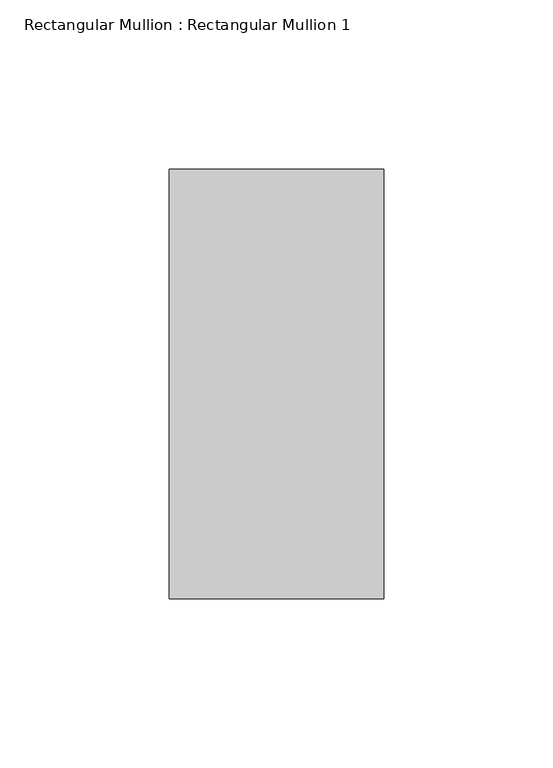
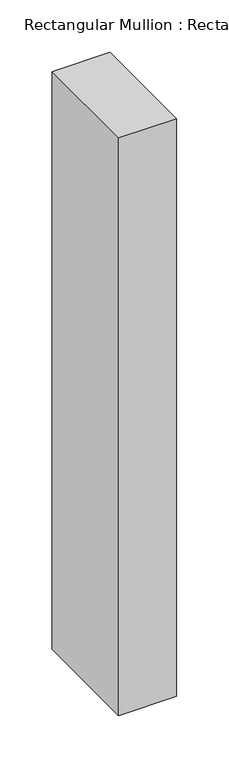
"""IFC4 building model written with IfcOpenShell, lengths in millimetres: member geometry, Rectangular Mullion : Rectangular Mullion 1."""

from ifc_helpers import new_model, si_unit, frame, origin, place, context, project, spatial, polyline, outline, extrude, source, transform, mapped, element, save


def rectangular_mullion_rectangular_mullion_1_02de63bf(model_context):
    return source(origin(), model_context, "Body", "SweptSolid", [
        extrude(outline(polyline([(31.75, 63.5), (31.75, -63.5), (-31.75, -63.5), (-31.75, 63.5), (31.75, 63.5)])), frame((0.0, 0.0, -673.1), z_axis=(0.0, 0.0, 1.0), x_axis=(1.0, 0.0, 0.0)), (0.0, 0.0, 1.0), 673.1),
    ])


if __name__ == "__main__":
    model = new_model("IFC4")
    model_context = context("Model", 3, world=origin())
    ifc_project = project(units=[si_unit("LENGTHUNIT", "METRE", prefix="MILLI")], contexts=[model_context])
    site = spatial("IfcSite", under=ifc_project)
    building = spatial("IfcBuilding", under=site)
    placement = place(None, origin())
    rectangular_mullion_rectangular_mullion_1_shape = rectangular_mullion_rectangular_mullion_1_02de63bf(model_context)
    element("IfcMember", 1, ObjectType="Rectangular Mullion : Rectangular Mullion 1", at=placement, inside=building, context=model_context, shape_type="MappedRepresentation", body=[
        mapped(rectangular_mullion_rectangular_mullion_1_shape, transform((0.0, 0.0, 0.0), x_axis=(1.0, 0.0, 0.0), y_axis=(0.0, 1.0, 0.0), z_axis=(0.0, 0.0, 1.0))),
    ])
    save(model, "model.ifc")
